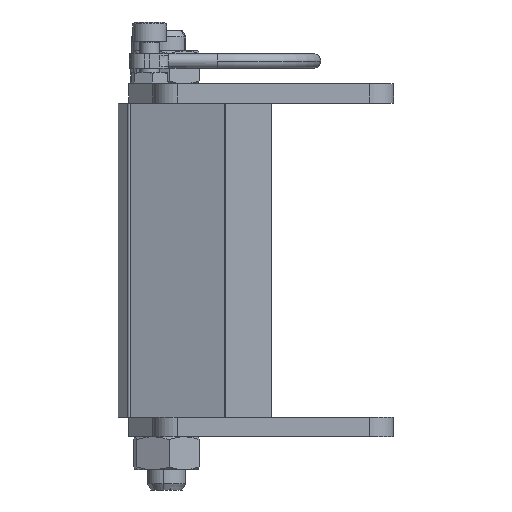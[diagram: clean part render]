
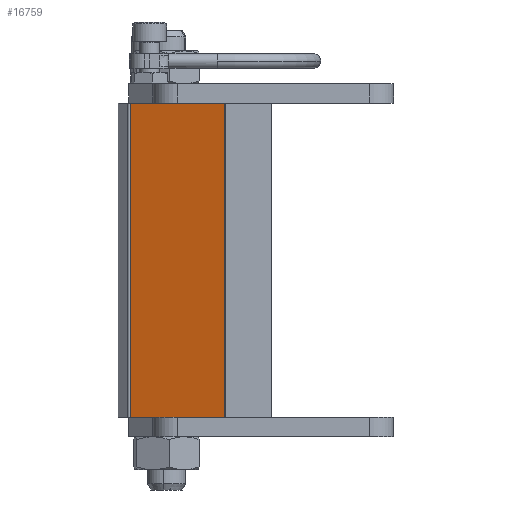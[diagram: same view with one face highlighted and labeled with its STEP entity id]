
A CAD part, left-side view. The second image highlights one B-rep face of the part: STEP entity #16759.
In plain terms, the highlighted planar face has unit normal (-0.391, -0.92, 0).
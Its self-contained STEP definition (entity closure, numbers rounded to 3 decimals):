
#327 = EDGE_LOOP ( 'NONE', ( #16486, #15631, #11229, #14416 ) ) ;
#674 = DIRECTION ( 'NONE',  ( 0., 0., 1. ) ) ;
#1054 = EDGE_CURVE ( 'NONE', #11659, #11267, #12709, .T. ) ;
#1794 = EDGE_CURVE ( 'NONE', #6848, #11267, #4308, .T. ) ;
#2110 = DIRECTION ( 'NONE',  ( 0., 0., 1. ) ) ;
#2608 = LINE ( 'NONE', #5114, #10585 ) ;
#3054 = VECTOR ( 'NONE', #674, 1000. ) ;
#3642 = CARTESIAN_POINT ( 'NONE',  ( 215.903, -14.8, -69. ) ) ;
#3883 = CARTESIAN_POINT ( 'NONE',  ( 215.903, -14.8, -69. ) ) ;
#4308 = LINE ( 'NONE', #8280, #4556 ) ;
#4556 = VECTOR ( 'NONE', #12975, 1000. ) ;
#5114 = CARTESIAN_POINT ( 'NONE',  ( 170.093, 4.645, -69. ) ) ;
#5395 = LINE ( 'NONE', #3642, #14559 ) ;
#6135 = DIRECTION ( 'NONE',  ( 0.391, 0.921, 0. ) ) ;
#6848 = VERTEX_POINT ( 'NONE', #12358 ) ;
#8029 = DIRECTION ( 'NONE',  ( 0.921, -0.391, 0. ) ) ;
#8280 = CARTESIAN_POINT ( 'NONE',  ( 170.093, 4.645, -4. ) ) ;
#10120 = DIRECTION ( 'NONE',  ( -0.921, 0.391, 0. ) ) ;
#10585 = VECTOR ( 'NONE', #2110, 1000. ) ;
#10941 = CARTESIAN_POINT ( 'NONE',  ( 215.903, -14.8, -69. ) ) ;
#11229 = ORIENTED_EDGE ( 'NONE', *, *, #1054, .T. ) ;
#11267 = VERTEX_POINT ( 'NONE', #17920 ) ;
#11659 = VERTEX_POINT ( 'NONE', #17545 ) ;
#11914 = EDGE_CURVE ( 'NONE', #11659, #16733, #5395, .T. ) ;
#12358 = CARTESIAN_POINT ( 'NONE',  ( 170.093, 4.645, -4. ) ) ;
#12575 = CARTESIAN_POINT ( 'NONE',  ( 170.093, 4.645, -69. ) ) ;
#12709 = LINE ( 'NONE', #3883, #3054 ) ;
#12975 = DIRECTION ( 'NONE',  ( 0.921, -0.391, 0. ) ) ;
#14416 = ORIENTED_EDGE ( 'NONE', *, *, #1794, .F. ) ;
#14559 = VECTOR ( 'NONE', #10120, 1000. ) ;
#14779 = FACE_OUTER_BOUND ( 'NONE', #327, .T. ) ;
#15631 = ORIENTED_EDGE ( 'NONE', *, *, #11914, .F. ) ;
#16486 = ORIENTED_EDGE ( 'NONE', *, *, #19018, .F. ) ;
#16733 = VERTEX_POINT ( 'NONE', #12575 ) ;
#16759 = ADVANCED_FACE ( 'NONE', ( #14779 ), #17364, .F. ) ;
#17364 = PLANE ( 'NONE',  #19798 ) ;
#17545 = CARTESIAN_POINT ( 'NONE',  ( 215.903, -14.8, -69. ) ) ;
#17920 = CARTESIAN_POINT ( 'NONE',  ( 215.903, -14.8, -4. ) ) ;
#19018 = EDGE_CURVE ( 'NONE', #16733, #6848, #2608, .T. ) ;
#19798 = AXIS2_PLACEMENT_3D ( 'NONE', #10941, #6135, #8029 ) ;
